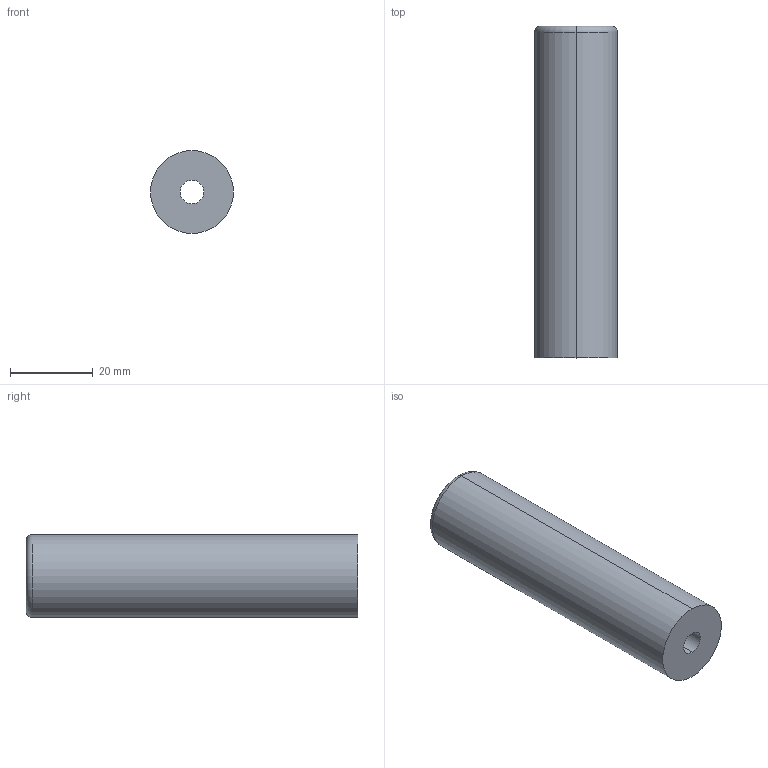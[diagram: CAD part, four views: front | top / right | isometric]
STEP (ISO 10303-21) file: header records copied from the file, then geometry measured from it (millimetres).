
FILE_DESCRIPTION (( 'STEP AP214' ), '1' );
FILE_NAME ('Leg.STEP', '2026-04-26T08:17:30', ( '' ), ( '' ), 'SwSTEP 2.0', 'SolidWorks 2010', '' );
FILE_SCHEMA (( 'AUTOMOTIVE_DESIGN' ));
Length unit declared in the file: millimetre
Products named in the file (1): Leg
Bounding box: 20 x 80 x 20 mm (x, y, z)
Volume: 19298.9 mm3; surface area: 7917 mm2
Topology: 1 solids, 1 shells, 17 faces, 34 edges, 20 vertices
Faces by surface type: cylinder 8, torus 4, plane 3, cone 2
Entity records: 486 total; most frequent: DIRECTION 94, CARTESIAN_POINT 72, ORIENTED_EDGE 68, AXIS2_PLACEMENT_3D 42, EDGE_CURVE 34, CIRCLE 24, VERTEX_POINT 20, EDGE_LOOP 20
